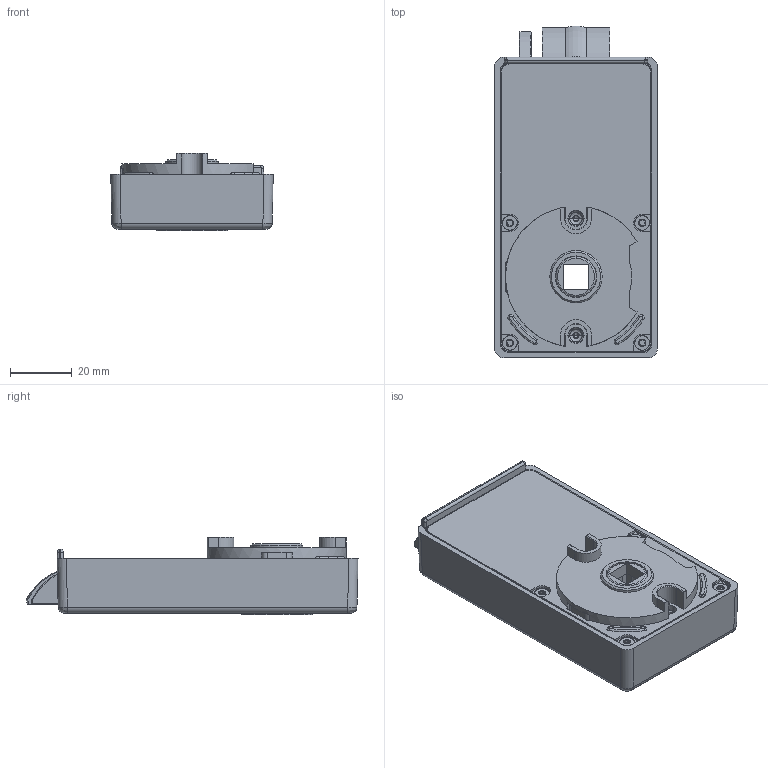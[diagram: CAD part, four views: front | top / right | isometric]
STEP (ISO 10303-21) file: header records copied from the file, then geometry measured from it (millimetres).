
FILE_DESCRIPTION((''),'2;1');
FILE_NAME('AIR_SCROCCO_VET_2025_05_06_','2025-05-06T11:54:23',('carlone'),(''),'CREO PARAMETRIC BY PTC INC, 2020454','CREO PARAMETRIC BY PTC INC, 2020454','');
FILE_SCHEMA(('CONFIG_CONTROL_DESIGN','SHAPE_APPEARANCE_LAYERS_GROUPS'));
Products named in the file (1): AIR_SCROCCO_VET_2025_05_06_
Bounding box: 52.78 x 107.89 x 25.25 mm (x, y, z)
Volume: 63578.7 mm3; surface area: 50142.5 mm2
Topology: 3 solids, 20 shells, 2242 faces, 6181 edges, 3880 vertices
Faces by surface type: plane 846, cylinder 671, bspline 309, cone 172, torus 115, sphere 56, extrusion 56, revolution 17
Entity records: 98156 total; most frequent: CARTESIAN_POINT 43283, ORIENTED_EDGE 12220, DIRECTION 10561, EDGE_CURVE 6128, VERTEX_POINT 3880, AXIS2_PLACEMENT_3D 3733, VECTOR 3078, LINE 3022
